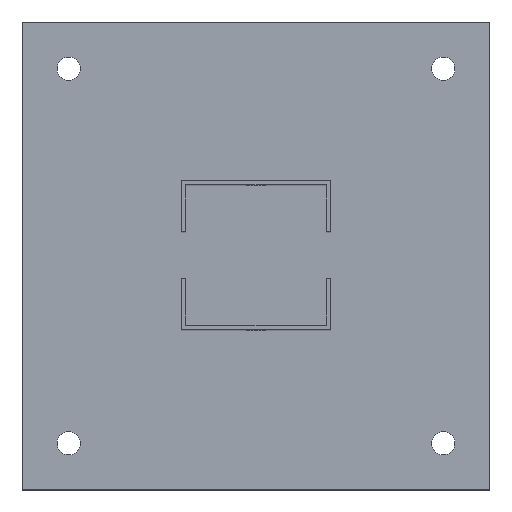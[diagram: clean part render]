
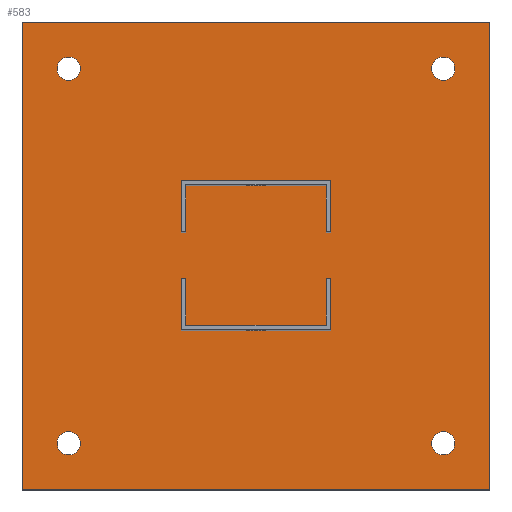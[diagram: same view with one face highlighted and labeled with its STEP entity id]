
A CAD part, top view. The second image highlights one B-rep face of the part: STEP entity #583.
In plain terms, the highlighted planar face has unit normal (0, 0, 1).
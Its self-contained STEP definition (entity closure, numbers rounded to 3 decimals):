
#73=CARTESIAN_POINT('',(-30.,-10.0,2.));
#74=VERTEX_POINT('',#73);
#83=CARTESIAN_POINT('',(-32.0,-10.0,2.));
#84=VERTEX_POINT('',#83);
#85=CARTESIAN_POINT('',(-32.0,-10.0,2.));
#86=DIRECTION('',(1.0,0.0,0.0));
#87=VECTOR('',#86,2.);
#88=LINE('',#85,#87);
#89=EDGE_CURVE('',#84,#74,#88,.T.);
#115=CARTESIAN_POINT('',(-30.,10.0,2.));
#116=VERTEX_POINT('',#115);
#131=CARTESIAN_POINT('',(-32.0,10.0,2.));
#132=VERTEX_POINT('',#131);
#139=CARTESIAN_POINT('',(-30.,10.0,2.));
#140=DIRECTION('',(-1.0,0.0,0.0));
#141=VECTOR('',#140,2.);
#142=LINE('',#139,#141);
#143=EDGE_CURVE('',#116,#132,#142,.T.);
#154=CARTESIAN_POINT('',(-30.,30.,2.));
#155=VERTEX_POINT('',#154);
#156=CARTESIAN_POINT('',(-30.,30.,2.));
#157=DIRECTION('',(0.0,-1.0,0.0));
#158=VECTOR('',#157,20.);
#159=LINE('',#156,#158);
#160=EDGE_CURVE('',#155,#116,#159,.T.);
#193=CARTESIAN_POINT('',(-30.0,-30.0,2.));
#194=VERTEX_POINT('',#193);
#201=CARTESIAN_POINT('',(-30.0,-10.,2.));
#202=DIRECTION('',(0.0,-1.0,0.0));
#203=VECTOR('',#202,20.0);
#204=LINE('',#201,#203);
#205=EDGE_CURVE('',#74,#194,#204,.T.);
#329=CARTESIAN_POINT('',(-32.0,32.,2.0));
#330=VERTEX_POINT('',#329);
#337=CARTESIAN_POINT('',(-32.0,10.0,2.));
#338=DIRECTION('',(0.0,1.0,0.0));
#339=VECTOR('',#338,22.);
#340=LINE('',#337,#339);
#341=EDGE_CURVE('',#132,#330,#340,.T.);
#352=CARTESIAN_POINT('',(-32.0,-32.0,2.0));
#353=VERTEX_POINT('',#352);
#354=CARTESIAN_POINT('',(-32.0,-32.0,2.));
#355=DIRECTION('',(0.0,1.0,0.0));
#356=VECTOR('',#355,22.0);
#357=LINE('',#354,#356);
#358=EDGE_CURVE('',#353,#84,#357,.T.);
#375=CARTESIAN_POINT('',(30.0,10.0,2.));
#376=VERTEX_POINT('',#375);
#383=CARTESIAN_POINT('',(32.,10.0,2.));
#384=VERTEX_POINT('',#383);
#385=CARTESIAN_POINT('',(32.,10.0,2.));
#386=DIRECTION('',(-1.0,0.0,0.0));
#387=VECTOR('',#386,2.);
#388=LINE('',#385,#387);
#389=EDGE_CURVE('',#384,#376,#388,.T.);
#406=CARTESIAN_POINT('',(30.0,-10.0,2.));
#407=VERTEX_POINT('',#406);
#415=CARTESIAN_POINT('',(32.,-10.0,2.));
#416=VERTEX_POINT('',#415);
#423=CARTESIAN_POINT('',(30.,-10.0,2.));
#424=DIRECTION('',(1.0,0.0,0.0));
#425=VECTOR('',#424,2.);
#426=LINE('',#423,#425);
#427=EDGE_CURVE('',#407,#416,#426,.T.);
#432=CARTESIAN_POINT('',(0.,0.0,2.));
#433=DIRECTION('',(0.0,0.0,1.0));
#434=DIRECTION('',(1.0,0.0,0.0));
#435=AXIS2_PLACEMENT_3D('',#432,#433,#434);
#436=PLANE('',#435);
#437=CARTESIAN_POINT('',(-100.0,100.0,2.0));
#438=VERTEX_POINT('',#437);
#439=CARTESIAN_POINT('',(100.0,100.0,2.0));
#440=VERTEX_POINT('',#439);
#441=CARTESIAN_POINT('',(-100.0,100.0,2.0));
#442=DIRECTION('',(1.0,0.0,0.0));
#443=VECTOR('',#442,200.0);
#444=LINE('',#441,#443);
#445=EDGE_CURVE('',#438,#440,#444,.T.);
#446=ORIENTED_EDGE('',*,*,#445,.F.);
#447=CARTESIAN_POINT('',(-100.0,-100.0,2.0));
#448=VERTEX_POINT('',#447);
#449=CARTESIAN_POINT('',(-100.0,-100.0,2.0));
#450=DIRECTION('',(0.0,1.0,0.0));
#451=VECTOR('',#450,200.0);
#452=LINE('',#449,#451);
#453=EDGE_CURVE('',#448,#438,#452,.T.);
#454=ORIENTED_EDGE('',*,*,#453,.F.);
#455=CARTESIAN_POINT('',(100.0,-100.0,2.0));
#456=VERTEX_POINT('',#455);
#457=CARTESIAN_POINT('',(100.0,-100.0,2.0));
#458=DIRECTION('',(-1.0,0.0,0.0));
#459=VECTOR('',#458,200.0);
#460=LINE('',#457,#459);
#461=EDGE_CURVE('',#456,#448,#460,.T.);
#462=ORIENTED_EDGE('',*,*,#461,.F.);
#463=CARTESIAN_POINT('',(100.0,100.0,2.0));
#464=DIRECTION('',(0.0,-1.0,0.0));
#465=VECTOR('',#464,200.0);
#466=LINE('',#463,#465);
#467=EDGE_CURVE('',#440,#456,#466,.T.);
#468=ORIENTED_EDGE('',*,*,#467,.F.);
#469=EDGE_LOOP('',(#446,#454,#462,#468));
#470=FACE_OUTER_BOUND('',#469,.T.);
#471=ORIENTED_EDGE('',*,*,#205,.T.);
#472=CARTESIAN_POINT('',(30.0,-30.0,2.));
#473=VERTEX_POINT('',#472);
#474=CARTESIAN_POINT('',(-30.0,-30.0,2.));
#475=DIRECTION('',(1.0,0.0,0.0));
#476=VECTOR('',#475,60.0);
#477=LINE('',#474,#476);
#478=EDGE_CURVE('',#194,#473,#477,.T.);
#479=ORIENTED_EDGE('',*,*,#478,.T.);
#480=CARTESIAN_POINT('',(30.0,-30.0,2.));
#481=DIRECTION('',(0.0,1.0,0.0));
#482=VECTOR('',#481,20.0);
#483=LINE('',#480,#482);
#484=EDGE_CURVE('',#473,#407,#483,.T.);
#485=ORIENTED_EDGE('',*,*,#484,.T.);
#486=ORIENTED_EDGE('',*,*,#427,.T.);
#487=CARTESIAN_POINT('',(32.,-32.0,2.0));
#488=VERTEX_POINT('',#487);
#489=CARTESIAN_POINT('',(32.,-10.0,2.));
#490=DIRECTION('',(0.0,-1.0,0.0));
#491=VECTOR('',#490,22.0);
#492=LINE('',#489,#491);
#493=EDGE_CURVE('',#416,#488,#492,.T.);
#494=ORIENTED_EDGE('',*,*,#493,.T.);
#495=CARTESIAN_POINT('',(32.,-32.0,2.));
#496=DIRECTION('',(-1.0,0.0,0.0));
#497=VECTOR('',#496,64.);
#498=LINE('',#495,#497);
#499=EDGE_CURVE('',#488,#353,#498,.T.);
#500=ORIENTED_EDGE('',*,*,#499,.T.);
#501=ORIENTED_EDGE('',*,*,#358,.T.);
#502=ORIENTED_EDGE('',*,*,#89,.T.);
#503=EDGE_LOOP('',(#471,#479,#485,#486,#494,#500,#501,#502));
#504=FACE_BOUND('',#503,.T.);
#505=ORIENTED_EDGE('',*,*,#143,.T.);
#506=ORIENTED_EDGE('',*,*,#341,.T.);
#507=CARTESIAN_POINT('',(32.,32.,2.0));
#508=VERTEX_POINT('',#507);
#509=CARTESIAN_POINT('',(-32.0,32.,2.));
#510=DIRECTION('',(1.0,0.0,0.0));
#511=VECTOR('',#510,64.);
#512=LINE('',#509,#511);
#513=EDGE_CURVE('',#330,#508,#512,.T.);
#514=ORIENTED_EDGE('',*,*,#513,.T.);
#515=CARTESIAN_POINT('',(32.,32.,2.));
#516=DIRECTION('',(0.0,-1.0,0.0));
#517=VECTOR('',#516,22.);
#518=LINE('',#515,#517);
#519=EDGE_CURVE('',#508,#384,#518,.T.);
#520=ORIENTED_EDGE('',*,*,#519,.T.);
#521=ORIENTED_EDGE('',*,*,#389,.T.);
#522=CARTESIAN_POINT('',(30.0,30.0,2.));
#523=VERTEX_POINT('',#522);
#524=CARTESIAN_POINT('',(30.0,10.0,2.));
#525=DIRECTION('',(0.0,1.0,0.0));
#526=VECTOR('',#525,20.0);
#527=LINE('',#524,#526);
#528=EDGE_CURVE('',#376,#523,#527,.T.);
#529=ORIENTED_EDGE('',*,*,#528,.T.);
#530=CARTESIAN_POINT('',(30.0,30.0,2.));
#531=DIRECTION('',(-1.0,0.0,0.0));
#532=VECTOR('',#531,60.);
#533=LINE('',#530,#532);
#534=EDGE_CURVE('',#523,#155,#533,.T.);
#535=ORIENTED_EDGE('',*,*,#534,.T.);
#536=ORIENTED_EDGE('',*,*,#160,.T.);
#537=EDGE_LOOP('',(#505,#506,#514,#520,#521,#529,#535,#536));
#538=FACE_BOUND('',#537,.T.);
#539=CARTESIAN_POINT('',(85.0,80.0,2.0));
#540=VERTEX_POINT('',#539);
#541=CARTESIAN_POINT('',(80.0,80.0,2.));
#542=DIRECTION('',(0.0,0.0,-1.0));
#543=DIRECTION('',(1.0,0.0,0.0));
#544=AXIS2_PLACEMENT_3D('',#541,#542,#543);
#545=CIRCLE('',#544,5.0);
#546=EDGE_CURVE('',#540,#540,#545,.T.);
#547=ORIENTED_EDGE('',*,*,#546,.T.);
#548=EDGE_LOOP('',(#547));
#549=FACE_BOUND('',#548,.T.);
#550=CARTESIAN_POINT('',(85.0,-80.0,2.0));
#551=VERTEX_POINT('',#550);
#552=CARTESIAN_POINT('',(80.0,-80.0,2.));
#553=DIRECTION('',(0.0,0.0,-1.0));
#554=DIRECTION('',(1.0,0.0,0.0));
#555=AXIS2_PLACEMENT_3D('',#552,#553,#554);
#556=CIRCLE('',#555,5.0);
#557=EDGE_CURVE('',#551,#551,#556,.T.);
#558=ORIENTED_EDGE('',*,*,#557,.T.);
#559=EDGE_LOOP('',(#558));
#560=FACE_BOUND('',#559,.T.);
#561=CARTESIAN_POINT('',(-75.0,-80.0,2.0));
#562=VERTEX_POINT('',#561);
#563=CARTESIAN_POINT('',(-80.0,-80.0,2.));
#564=DIRECTION('',(0.0,0.0,-1.0));
#565=DIRECTION('',(1.0,0.0,0.0));
#566=AXIS2_PLACEMENT_3D('',#563,#564,#565);
#567=CIRCLE('',#566,5.0);
#568=EDGE_CURVE('',#562,#562,#567,.T.);
#569=ORIENTED_EDGE('',*,*,#568,.T.);
#570=EDGE_LOOP('',(#569));
#571=FACE_BOUND('',#570,.T.);
#572=CARTESIAN_POINT('',(-75.0,80.0,2.0));
#573=VERTEX_POINT('',#572);
#574=CARTESIAN_POINT('',(-80.0,80.0,2.));
#575=DIRECTION('',(0.0,0.0,-1.0));
#576=DIRECTION('',(1.0,0.0,0.0));
#577=AXIS2_PLACEMENT_3D('',#574,#575,#576);
#578=CIRCLE('',#577,5.0);
#579=EDGE_CURVE('',#573,#573,#578,.T.);
#580=ORIENTED_EDGE('',*,*,#579,.T.);
#581=EDGE_LOOP('',(#580));
#582=FACE_BOUND('',#581,.T.);
#583=ADVANCED_FACE('',(#470,#504,#538,#549,#560,#571,#582),#436,.T.);
